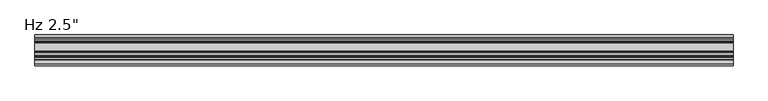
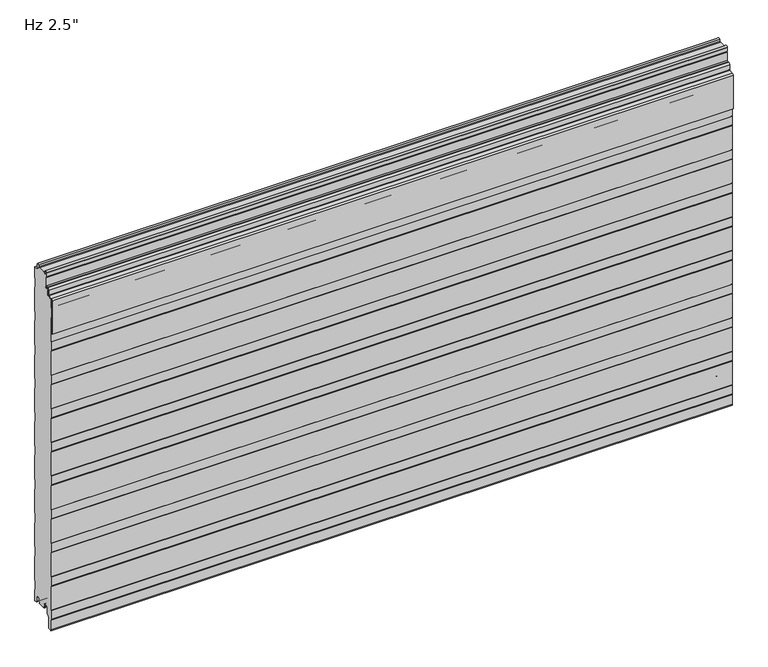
"""IFC4 building model written with IfcOpenShell, lengths in millimetres: plate geometry."""

from ifc_helpers import new_model, si_unit, point, frame, frame_2d, origin, place, context, project, spatial, polyline, circle_curve, trimmed, segment, composite_curve, outline, extrude, source, transform, mapped, element, save
from ifc_brep_helpers import plane_surface, cylinder_surface, revolved_surface, advanced_brep


def plate_9315405e(model_context):
    return source(origin(), model_context, "Body", "SolidModel", [
        advanced_brep(
        [(730.0, -42.4008679, 735.9534183), (730.0, -42.4008679, 754.6986183), (730.0, -43.9248679, 754.6986183), (730.0, -43.9248679, 735.9534183), (730.0, -45.4488679, 734.4294183), (730.0, -48.5476679, 734.4294183), (730.0, -52.0020679, 730.9750183), (730.0, -52.0020679, 719.762461), (730.0, -52.6976552, 719.0033606), (730.0, -62.2416507, 717.808533), (730.0, -65.024, 714.7721316), (730.0, -65.0360323, 639.2048183), (730.0, -63.5, 639.2048183), (730.0, -63.5, 714.7721316), (730.0, -62.1088254, 716.2903323), (730.0, -52.5648299, 717.4851599), (730.0, -50.4780679, 719.762461), (730.0, -50.4780679, 730.9750183), (730.0, -48.5476679, 732.9054183), (730.0, -45.4488679, 732.9054183), (-730.0, -42.4008679, 735.9534183), (-730.0, -45.4488679, 732.9054183), (-730.0, -48.5476679, 732.9054183), (-730.0, -50.4780679, 730.9750183), (-730.0, -50.4780679, 719.762461), (-730.0, -52.5648299, 717.4851599), (-730.0, -62.1088254, 716.2903323), (-730.0, -63.5, 714.7721316), (-730.0, -63.5, 639.2048183), (-730.0, -65.0360323, 639.2048183), (-730.0, -65.0360323, 714.7721316), (-730.0, -62.2416507, 717.808533), (-730.0, -52.6976552, 719.0033606), (-730.0, -52.0020679, 719.762461), (-730.0, -52.0020679, 730.9750183), (-730.0, -48.5476679, 734.4294183), (-730.0, -45.4488679, 734.4294183), (-730.0, -43.9248679, 735.9534183), (-730.0, -43.9248679, 754.6986183), (-730.0, -42.4008679, 754.6986183)],
        [
            (0, 1),
            (1, 2),
            (2, 3),
            (3, 4, circle_curve(frame((730.0, -45.4488679, 735.9534183), z_axis=(-1.0, 0.0, 0.0), x_axis=(0.0, 1.0, 0.0)), 1.524)),
            (4, 5),
            (5, 6, circle_curve(frame((730.0, -48.5476679, 730.9750183), z_axis=(1.0, 0.0, 0.0), x_axis=(0.0, 1.0, 0.0)), 3.4544)),
            (6, 7),
            (7, 8, circle_curve(frame((730.0, -52.7640679, 719.762461), z_axis=(-1.0, 0.0, 0.0), x_axis=(0.0, 1.0, 0.0)), 0.762)),
            (8, 9),
            (9, 10, circle_curve(frame((730.0, -61.976, 714.7721316), z_axis=(1.0, 0.0, 0.0), x_axis=(0.0, 1.0, 0.0)), 3.048)),
            (10, 11),
            (11, 12),
            (12, 13),
            (13, 14, circle_curve(frame((730.0, -61.976, 714.7721316), z_axis=(-1.0, 0.0, 0.0), x_axis=(0.0, 1.0, 0.0)), 1.524)),
            (14, 15),
            (15, 16, circle_curve(frame((730.0, -52.7640679, 719.762461), z_axis=(1.0, 0.0, 0.0), x_axis=(0.0, 1.0, 0.0)), 2.286)),
            (16, 17),
            (17, 18, circle_curve(frame((730.0, -48.5476679, 730.9750183), z_axis=(-1.0, 0.0, 0.0), x_axis=(0.0, 1.0, 0.0)), 1.9304)),
            (18, 19),
            (19, 0, circle_curve(frame((730.0, -45.4488679, 735.9534183), z_axis=(1.0, 0.0, 0.0), x_axis=(0.0, 1.0, 0.0)), 3.048)),
            (20, 21, circle_curve(frame((-730.0, -45.4488679, 735.9534183), z_axis=(-1.0, 0.0, 0.0), x_axis=(0.0, 1.0, 0.0)), 3.048)),
            (21, 22),
            (22, 23, circle_curve(frame((-730.0, -48.5476679, 730.9750183), z_axis=(1.0, 0.0, 0.0), x_axis=(0.0, 1.0, 0.0)), 1.9304)),
            (23, 24),
            (24, 25, circle_curve(frame((-730.0, -52.7640679, 719.762461), z_axis=(-1.0, 0.0, 0.0), x_axis=(0.0, 1.0, 0.0)), 2.286)),
            (25, 26),
            (26, 27, circle_curve(frame((-730.0, -61.976, 714.7721316), z_axis=(1.0, 0.0, 0.0), x_axis=(0.0, 1.0, 0.0)), 1.524)),
            (27, 28),
            (28, 29),
            (29, 30),
            (30, 31, circle_curve(frame((-730.0, -61.976, 714.7721316), z_axis=(-1.0, 0.0, 0.0), x_axis=(0.0, 1.0, 0.0)), 3.048)),
            (31, 32),
            (32, 33, circle_curve(frame((-730.0, -52.7640679, 719.762461), z_axis=(1.0, 0.0, 0.0), x_axis=(0.0, 1.0, 0.0)), 0.762)),
            (33, 34),
            (34, 35, circle_curve(frame((-730.0, -48.5476679, 730.9750183), z_axis=(-1.0, 0.0, 0.0), x_axis=(0.0, 1.0, 0.0)), 3.4544)),
            (35, 36),
            (36, 37, circle_curve(frame((-730.0, -45.4488679, 735.9534183), z_axis=(1.0, 0.0, 0.0), x_axis=(0.0, 1.0, 0.0)), 1.524)),
            (37, 38),
            (38, 39),
            (39, 20),
            (2, 38),
            (37, 3),
            (15, 25),
            (24, 16),
            (7, 33),
            (32, 8),
            (5, 35),
            (34, 6),
            (1, 39),
            (36, 4),
            (9, 31),
            (30, 10),
            (13, 27),
            (26, 14),
            (0, 20),
            (12, 28),
            (29, 11),
            (23, 17),
            (18, 22),
            (21, 19),
        ],
        [
            plane_surface(frame((730.0, -63.5, 754.6986183), z_axis=(1.0, 0.0, 0.0), x_axis=(0.0, 0.0, -1.0))),
            plane_surface(frame((-730.0, -63.5, 754.6986183), z_axis=(-1.0, 0.0, 0.0), x_axis=(0.0, 0.0, -1.0))),
            plane_surface(frame((730.0, -43.9248679, 735.9534183), z_axis=(0.0, -1.0, 0.0), x_axis=(-1.0, 0.0, 0.0))),
            cylinder_surface(frame((730.0, -52.7640679, 719.762461), z_axis=(1.0, 0.0, 0.0), x_axis=(0.0, 1.0, 0.0)), 2.286),
            revolved_surface(polyline([(-730.0, -52.0020679, 719.762461), (730.0, -52.0020679, 719.762461)]), (730.0, -52.7640679, 719.762461), (-1.0, 0.0, 0.0)),
            cylinder_surface(frame((730.0, -48.5476679, 730.9750183), z_axis=(1.0, 0.0, 0.0), x_axis=(0.0, 1.0, 0.0)), 3.4544),
            plane_surface(frame((730.0, -43.9248679, 754.6986183), z_axis=(0.0, 0.0, 1.0), x_axis=(-1.0, 0.0, 0.0))),
            revolved_surface(polyline([(-730.0, -43.9248679, 735.9534183), (730.0, -43.9248679, 735.9534183)]), (730.0, -45.4488679, 735.9534183), (-1.0, 0.0, 0.0)),
            cylinder_surface(frame((730.0, -61.976, 714.7721316), z_axis=(1.0, 0.0, 0.0), x_axis=(0.0, 1.0, 0.0)), 3.048),
            revolved_surface(polyline([(-730.0, -60.452, 714.7721316), (730.0, -60.452, 714.7721316)]), (730.0, -61.976, 714.7721316), (-1.0, 0.0, 0.0)),
            plane_surface(frame((730.0, -42.4008679, 754.6986183), z_axis=(0.0, 1.0, 0.0), x_axis=(-1.0, 0.0, 0.0))),
            plane_surface(frame((730.0, -52.5648299, 717.4851599), z_axis=(0.0, 0.12422187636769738, -0.9922544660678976), x_axis=(-1.0, 0.0, 0.0))),
            plane_surface(frame((730.0, -63.5, 714.7721316), z_axis=(0.0, 1.0, 0.0), x_axis=(-1.0, 0.0, 0.0))),
            plane_surface(frame((730.0, -62.2416507, 717.808533), z_axis=(0.0, -0.12422187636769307, 0.9922544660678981), x_axis=(-1.0, 0.0, 0.0))),
            plane_surface(frame((730.0, -48.5476679, 734.4294183), z_axis=(0.0, 0.0, 1.0), x_axis=(-1.0, 0.0, 0.0))),
            plane_surface(frame((730.0, -65.0360323, 639.2048183), z_axis=(0.0, -1.0, 0.0), x_axis=(-1.0, 0.0, 0.0))),
            plane_surface(frame((730.0, -63.5, 639.2048183), z_axis=(0.0, 0.0, -1.0), x_axis=(-1.0, 0.0, 0.0))),
            plane_surface(frame((730.0, -50.4780679, 730.9750183), z_axis=(0.0, 1.0, 0.0), x_axis=(-1.0, 0.0, 0.0))),
            plane_surface(frame((730.0, -45.4488679, 732.9054183), z_axis=(0.0, 0.0, -1.0), x_axis=(-1.0, 0.0, 0.0))),
            plane_surface(frame((730.0, -52.0020679, 719.762461), z_axis=(0.0, -1.0, 0.0), x_axis=(-1.0, 0.0, 0.0))),
            revolved_surface(polyline([(-730.0, -46.6172679, 730.9750183), (730.0, -46.6172679, 730.9750183)]), (730.0, -48.5476679, 730.9750183), (-1.0, 0.0, 0.0)),
            cylinder_surface(frame((730.0, -45.4488679, 735.9534183), z_axis=(1.0, 0.0, 0.0), x_axis=(0.0, 1.0, 0.0)), 3.048),
        ],
        [
            (0, [[1, 2, 3, 4, 5, 6, 7, 8, 9, 10, 11, 12, 13, 14, 15, 16, 17, 18, 19, 20]]),
            (1, [[21, 22, 23, 24, 25, 26, 27, 28, 29, 30, 31, 32, 33, 34, 35, 36, 37, 38, 39, 40]]),
            (2, [[41, -38, 42, -3]]),
            (3, [[43, -25, 44, -16]]),
            (4, [[45, -33, 46, -8]]),
            (5, [[47, -35, 48, -6]]),
            (6, [[49, -39, -41, -2]]),
            (7, [[-42, -37, 50, -4]]),
            (8, [[51, -31, 52, -10]]),
            (9, [[53, -27, 54, -14]]),
            (10, [[55, -40, -49, -1]]),
            (11, [[-54, -26, -43, -15]]),
            (12, [[56, -28, -53, -13]]),
            (13, [[-46, -32, -51, -9]]),
            (14, [[-50, -36, -47, -5]]),
            (15, [[-52, -30, 57, -11]]),
            (16, [[-57, -29, -56, -12]]),
            (17, [[-44, -24, 58, -17]]),
            (18, [[59, -22, 60, -19]]),
            (19, [[-48, -34, -45, -7]]),
            (20, [[-58, -23, -59, -18]]),
            (21, [[-60, -21, -55, -20]]),
        ],
    ),
        extrude(outline(composite_curve([segment(trimmed(circle_curve(frame_2d((-35.206538, 2.2313092)), 1.1999976), [point((-35.1760161, 1.0316999))], [point((-34.0065413, 2.2328239))], True, "CARTESIAN"), True, "CONTINUOUS"), segment(polyline([(-34.0065413, 2.2328239), (-34.0065413, 5.9912173), (-35.4050202, 5.9912173), (-35.4050202, 8.6903283)]), True, "CONTINUOUS"), segment(trimmed(circle_curve(frame_2d((-38.7550155, 8.6903283)), 3.3499953), [point((-35.4050202, 8.6903283))], [point((-38.7550155, 12.0403236))], True, "CARTESIAN"), True, "CONTINUOUS"), segment(polyline([(-38.7550155, 12.0403236), (-43.1550067, 12.0403236)]), True, "CONTINUOUS"), segment(trimmed(circle_curve(frame_2d((-43.1550067, 8.6903283)), 3.3499953), [point((-43.1550067, 12.0403236))], [point((-46.505002, 8.6903283))], True, "CARTESIAN"), True, "CONTINUOUS"), segment(polyline([(-46.505002, 8.6903283), (-46.505002, -3.1205608)]), True, "CONTINUOUS"), segment(trimmed(circle_curve(frame_2d((-48.2049966, -3.1205608)), 1.6999946), [point((-46.505002, -3.1205608))], [point((-47.0029189, -4.3226385))], False, "CARTESIAN"), True, "CONTINUOUS"), segment(polyline([(-47.0029189, -4.3226385), (-52.50499, -9.8247096), (-52.50499, -31.9198392)]), True, "CONTINUOUS"), segment(trimmed(circle_curve(frame_2d((-55.2049826, -31.9198392)), 2.6999926), [point((-52.50499, -31.9198392))], [point((-54.723592, -34.5765709))], False, "CARTESIAN"), True, "CONTINUOUS"), segment(polyline([(-54.723592, -34.5765709), (-59.7054129, -35.0125699)]), True, "CONTINUOUS"), segment(trimmed(circle_curve(frame_2d((-59.9294985, -32.4521176)), 2.5702393), [point((-59.7054129, -35.0125699))], [point((-62.4997378, -32.4521176))], False, "CARTESIAN"), True, "CONTINUOUS"), segment(polyline([(-62.4997378, -32.4521176), (-62.4997378, -10.4790962), (-61.2997693, -9.2791277), (-61.2997693, 10.4402849), (-62.5, 11.6405156), (-62.5, 65.7206473), (-61.2997693, 66.920878), (-61.2997693, 86.6402905), (-62.5, 87.8405213), (-62.5, 141.920653), (-61.2997693, 143.1208837), (-61.2997693, 162.8402962), (-62.5, 164.0405269), (-62.5, 218.1206587), (-61.2997693, 219.3208894), (-61.2997693, 239.0403019), (-62.5, 240.2405326), (-62.5, 294.3206644), (-61.2997693, 295.5208951), (-61.2997693, 315.2403076), (-62.5, 316.4405383), (-62.5, 370.5206701), (-61.2997693, 371.7209008), (-61.2997693, 391.4403133), (-62.5, 392.640544), (-62.5, 446.7206758), (-61.2997693, 447.9209065), (-61.2997693, 467.640319), (-62.5, 468.8405497), (-62.5, 522.9206815), (-61.2997693, 524.1209122), (-61.2997693, 543.8403247), (-62.5, 545.0405554), (-62.5, 599.1206872), (-61.2997693, 600.3209179), (-61.2997693, 620.0403304), (-62.5, 621.2405611), (-62.5, 675.3206929), (-61.2997693, 676.5209236), (-61.2997693, 696.2403361), (-62.5051411, 697.4457079), (-62.5051411, 713.5156233)]), True, "CONTINUOUS"), segment(trimmed(circle_curve(frame_2d((-60.5461194, 713.5156233)), 1.9590216), [point((-62.5051411, 713.5156233))], [point((-60.7178029, 715.4671075))], False, "CARTESIAN"), True, "CONTINUOUS"), segment(polyline([(-60.7178029, 715.4671075), (-52.2590902, 716.221161)]), True, "CONTINUOUS"), segment(trimmed(circle_curve(frame_2d((-52.5231732, 719.2396267)), 3.0299959), [point((-52.2590902, 716.221161))], [point((-49.4957873, 719.3653654))], True, "CARTESIAN"), True, "CONTINUOUS"), segment(polyline([(-49.4957873, 719.3653654), (-49.4957873, 729.4583308)]), True, "CONTINUOUS"), segment(trimmed(circle_curve(frame_2d((-48.5443786, 729.4583308)), 0.9514087), [point((-49.4957873, 729.4583308))], [point((-48.5443786, 730.4097394))], False, "CARTESIAN"), True, "CONTINUOUS"), segment(polyline([(-48.5443786, 730.4097394), (-45.4007233, 730.4097394)]), True, "CONTINUOUS"), segment(trimmed(circle_curve(frame_2d((-45.4007233, 734.4091924)), 3.9994529), [point((-45.4007233, 730.4097394))], [point((-41.4012703, 734.4091924))], True, "CARTESIAN"), True, "CONTINUOUS"), segment(polyline([(-41.4012703, 734.4091924), (-41.4012703, 755.5895515), (-43.3821181, 756.7334028), (-43.0268578, 765.706811)]), True, "CONTINUOUS"), segment(trimmed(circle_curve(frame_2d((-40.9266291, 765.6236622)), 2.1018739), [point((-43.0268578, 765.706811))], [point((-38.8262802, 765.7037148))], False, "CARTESIAN"), True, "CONTINUOUS"), segment(polyline([(-38.8262802, 765.7037148), (-38.5818653, 761.6977997)]), True, "CONTINUOUS"), segment(trimmed(circle_curve(frame_2d((-36.7434917, 761.8099653)), 1.8417922), [point((-38.5818653, 761.6977997))], [point((-36.7870527, 759.9686884))], True, "CARTESIAN"), True, "CONTINUOUS"), segment(polyline([(-36.7870527, 759.9686884), (-34.0025061, 759.9686884), (-34.0025061, 760.9686884), (-35.5900061, 760.9686884), (-34.5586945, 762.0), (-18.6184525, 762.0), (-17.5871409, 760.9686884), (-19.0015288, 760.9686884), (-19.0015288, 759.9686884), (-16.6743462, 759.9686884)]), True, "CONTINUOUS"), segment(trimmed(circle_curve(frame_2d((-16.6743462, 761.7186869)), 1.7499985), [point((-16.6743462, 759.9686884))], [point((-14.9256429, 761.6513685))], True, "CARTESIAN"), True, "CONTINUOUS"), segment(polyline([(-14.9256429, 761.6513685), (-14.7059822, 765.7921924)]), True, "CONTINUOUS"), segment(trimmed(circle_curve(frame_2d((-12.5552871, 765.6781032)), 2.153719), [point((-14.7059822, 765.7921924))], [point((-10.4046442, 765.7931719))], False, "CARTESIAN"), True, "CONTINUOUS"), segment(polyline([(-10.4046442, 765.7931719), (-9.9974365, 757.3016499)]), True, "CONTINUOUS"), segment(trimmed(circle_curve(frame_2d((-5.9867338, 757.4939817)), 4.0153117), [point((-9.9974365, 757.3016499))], [point((-6.0026007, 753.4787013))], True, "CARTESIAN"), True, "CONTINUOUS"), segment(polyline([(-6.0026007, 753.4787013), (-1.0, 753.4787013), (-1.0, 728.9790963), (-2.2002307, 727.5934634), (-2.2002307, 708.2182971), (-1.0, 706.8326641), (-1.0, 652.7792487), (-2.2002307, 651.3936158), (-2.2002307, 632.0184495), (-1.0, 630.6328165), (-1.0, 576.5794011), (-2.2002307, 575.1937682), (-2.2002307, 555.8186019), (-1.0, 554.4329689), (-1.0, 500.3795535), (-2.2002307, 498.9939206), (-2.2002307, 479.6187543), (-1.0, 478.2331213), (-1.0, 424.1797059), (-2.2002307, 422.794073), (-2.2002307, 403.4189067), (-1.0, 402.0332737), (-1.0, 347.9798583), (-2.2002307, 346.5942254), (-2.2002307, 327.2190591), (-1.0, 325.8334261), (-1.0, 271.7800107), (-2.2002307, 270.3943778), (-2.2002307, 251.0192115), (-1.0, 249.6335785), (-1.0, 195.5801631), (-2.2002307, 194.1945302), (-2.2002307, 174.8193639), (-1.0, 173.4337309), (-1.0, 119.3803155), (-2.2002307, 117.9946826), (-2.2002307, 98.6195163), (-1.0, 97.2338833), (-1.0, 43.1804679), (-2.2002307, 41.794835), (-2.2002307, 22.4196687), (-0.9999916, 21.034026), (-0.9999916, -3.4662506), (-5.2315389, -3.4662506)]), True, "CONTINUOUS"), segment(trimmed(circle_curve(frame_2d((-5.2315389, -1.6962564)), 1.7699942), [point((-5.2315389, -3.4662506))], [point((-7.0015331, -1.6962564))], False, "CARTESIAN"), True, "CONTINUOUS"), segment(polyline([(-7.0015331, -1.6962564), (-7.0015331, 8.7237222)]), True, "CONTINUOUS"), segment(trimmed(circle_curve(frame_2d((-10.301529, 8.7237222)), 3.2999959), [point((-7.0015331, 8.7237222))], [point((-10.301529, 12.023718))], True, "CARTESIAN"), True, "CONTINUOUS"), segment(polyline([(-10.301529, 12.023718), (-14.7015202, 12.023718)]), True, "CONTINUOUS"), segment(trimmed(circle_curve(frame_2d((-14.7015202, 8.7237223)), 3.2999957), [point((-14.7015202, 12.023718))], [point((-18.0015159, 8.7237223))], True, "CARTESIAN"), True, "CONTINUOUS"), segment(polyline([(-18.0015159, 8.7237223), (-18.0015159, 6.0315125), (-19.0015105, 6.0315125), (-19.0015105, 2.0313089)]), True, "CONTINUOUS"), segment(trimmed(circle_curve(frame_2d((-18.0015133, 2.0313089)), 0.9999972), [point((-19.0015105, 2.0313089))], [point((-18.0015192, 1.0313117))], True, "CARTESIAN"), True, "CONTINUOUS"), segment(polyline([(-18.0015192, 1.0313117), (-19.0328308, 0.0), (-34.1443162, 0.0), (-35.1760161, 1.0316999)]), True, "CONTINUOUS")], self_intersect=False)), frame((-730.0, 0.0, 0.0), z_axis=(1.0, 0.0, 0.0), x_axis=(0.0, 1.0, 0.0)), (0.0, 0.0, 1.0), 1460.0),
    ])


if __name__ == "__main__":
    model = new_model("IFC4")
    model_context = context("Model", 3, world=origin())
    ifc_project = project(units=[si_unit("LENGTHUNIT", "METRE", prefix="MILLI")], contexts=[model_context])
    site = spatial("IfcSite", under=ifc_project)
    building = spatial("IfcBuilding", under=site)
    placement = place(None, origin())
    plate_shape = plate_9315405e(model_context)
    element("IfcPlate", 1, ObjectType="KIP-30-Karrier-KP-R19-CP-Hz-SL_SL : Hz 2.5\"", at=placement, inside=building, context=model_context, shape_type="MappedRepresentation", body=[
        mapped(plate_shape, transform((0.0, 0.0, 0.0), x_axis=(1.0, 0.0, 0.0), y_axis=(0.0, 1.0, 0.0), z_axis=(0.0, 0.0, 1.0))),
    ])
    save(model, "model.ifc")
